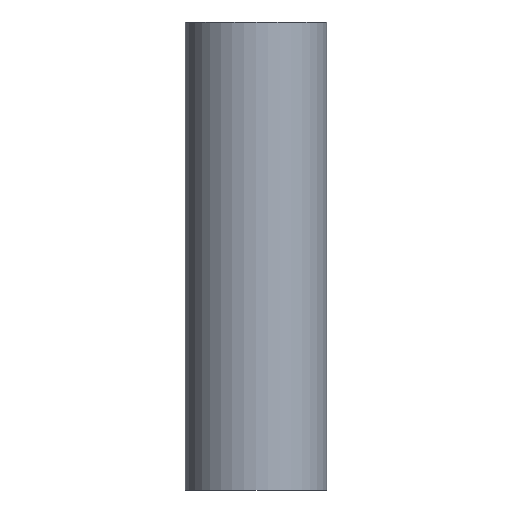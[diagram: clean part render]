
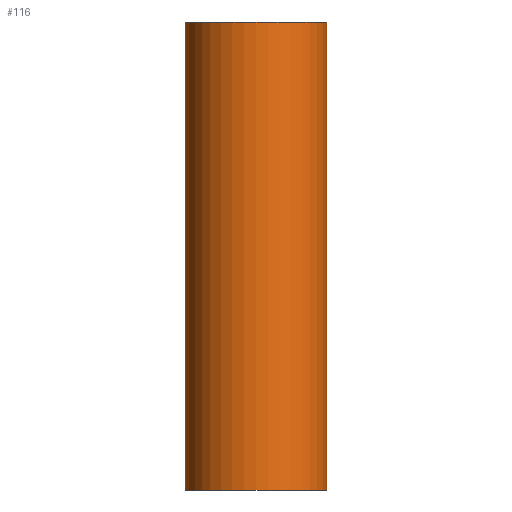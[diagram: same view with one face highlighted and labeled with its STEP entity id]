
A CAD part, left-side view. The second image highlights one B-rep face of the part: STEP entity #116.
In plain terms, the highlighted cylindrical face has radius 25 mm (diameter 50 mm), a full revolution.
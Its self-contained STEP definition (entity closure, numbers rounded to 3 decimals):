
#23=FACE_BOUND('',#51,.T.);
#24=FACE_BOUND('',#52,.T.);
#30=CIRCLE('',#151,25.);
#31=CIRCLE('',#153,25.);
#37=FACE_OUTER_BOUND('',#50,.T.);
#50=EDGE_LOOP('',(#93));
#51=EDGE_LOOP('',(#94,#95));
#52=EDGE_LOOP('',(#96));
#57=ELLIPSE('',#146,65.328,25.);
#58=ELLIPSE('',#147,27.06,25.);
#64=VERTEX_POINT('',#205);
#65=VERTEX_POINT('',#206);
#67=VERTEX_POINT('',#213);
#68=VERTEX_POINT('',#216);
#74=EDGE_CURVE('',#64,#65,#57,.T.);
#75=EDGE_CURVE('',#65,#64,#58,.T.);
#77=EDGE_CURVE('',#67,#67,#30,.T.);
#78=EDGE_CURVE('',#68,#68,#31,.T.);
#93=ORIENTED_EDGE('',*,*,#77,.T.);
#94=ORIENTED_EDGE('',*,*,#75,.T.);
#95=ORIENTED_EDGE('',*,*,#74,.T.);
#96=ORIENTED_EDGE('',*,*,#78,.F.);
#102=CYLINDRICAL_SURFACE('',#152,25.);
#116=ADVANCED_FACE('',(#37,#23,#24),#102,.T.);
#146=AXIS2_PLACEMENT_3D('',#207,#173,#174);
#147=AXIS2_PLACEMENT_3D('',#208,#175,#176);
#151=AXIS2_PLACEMENT_3D('',#214,#183,#184);
#152=AXIS2_PLACEMENT_3D('',#215,#185,#186);
#153=AXIS2_PLACEMENT_3D('',#217,#187,#188);
#173=DIRECTION('center_axis',(-0.924,0.,0.383));
#174=DIRECTION('ref_axis',(-0.383,0.,-0.924));
#175=DIRECTION('center_axis',(-0.383,0.,-0.924));
#176=DIRECTION('ref_axis',(0.924,0.,-0.383));
#183=DIRECTION('center_axis',(0.,0.,-1.));
#184=DIRECTION('ref_axis',(1.,0.,0.));
#185=DIRECTION('center_axis',(0.,0.,-1.));
#186=DIRECTION('ref_axis',(-1.,0.,0.));
#187=DIRECTION('center_axis',(0.,0.,-1.));
#188=DIRECTION('ref_axis',(1.,0.,0.));
#205=CARTESIAN_POINT('',(0.,-25.,55.));
#206=CARTESIAN_POINT('',(0.,25.,55.));
#207=CARTESIAN_POINT('Origin',(0.,0.,55.));
#208=CARTESIAN_POINT('Origin',(0.,0.,55.));
#213=CARTESIAN_POINT('',(-25.,0.,165.));
#214=CARTESIAN_POINT('Origin',(0.,0.,165.));
#215=CARTESIAN_POINT('Origin',(0.,0.,82.5));
#216=CARTESIAN_POINT('',(-25.,0.,0.));
#217=CARTESIAN_POINT('Origin',(0.,0.,0.));
